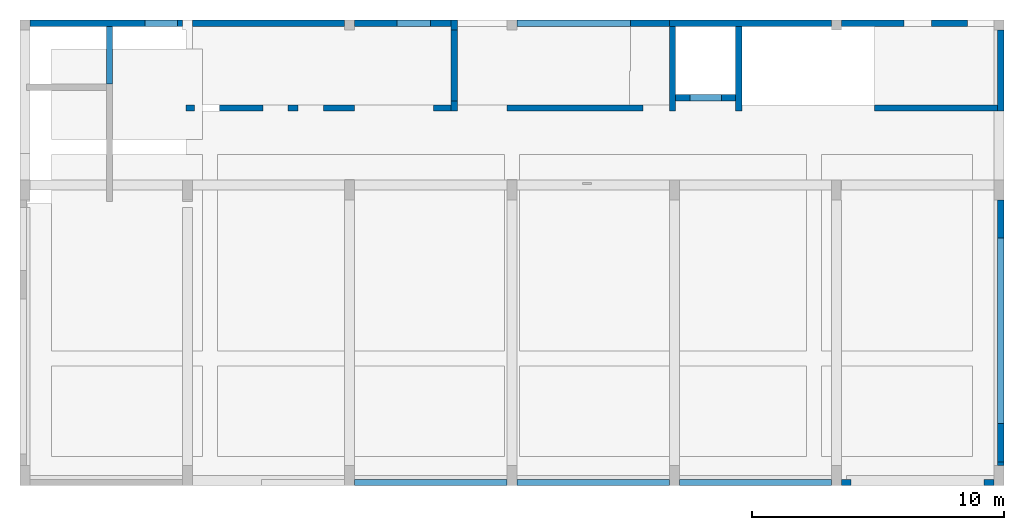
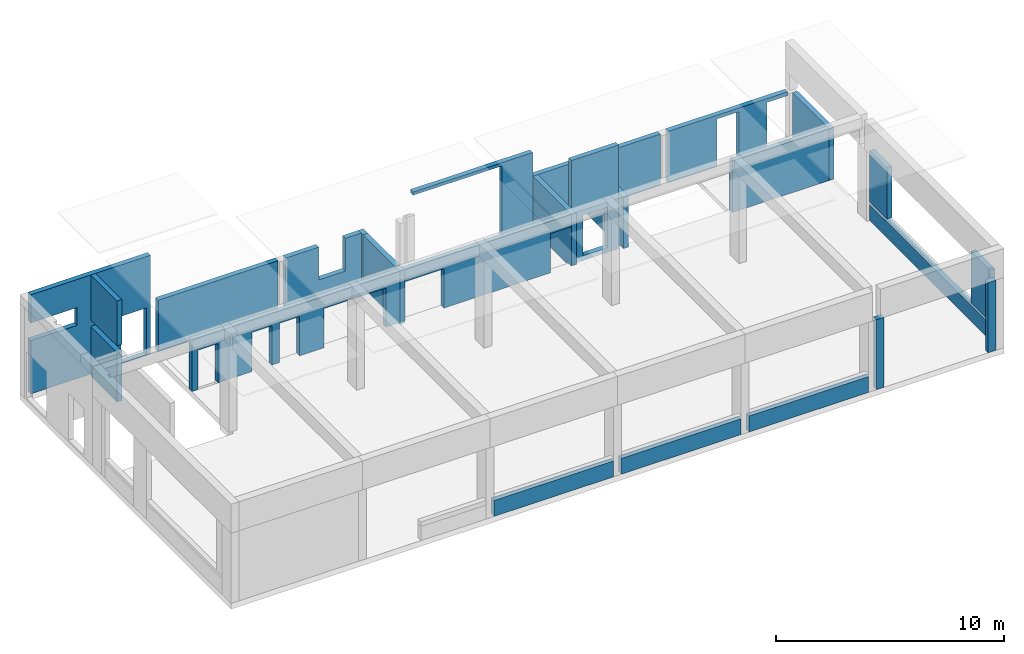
# One storey, part 3 of 3: 27 walls, 14 openings.
"""IFC2X3 building model written with IfcOpenShell, lengths in centimetres."""

from ifc_helpers import new_model, entity, si_unit, converted_unit, derived_unit, direction, frame, frame_2d, origin, origin_2d_with_axis, place, context, subcontext, project, spatial, polyline, rectangle, extrude, clip, bounded_halfspace, material, layer, layer_set, layer_usage, type_object, element, save


model = new_model("IFC2X3")

# Units and contexts
model_context = context("Model", 3, precision=0.001, world=origin(), true_north=direction((6.12303176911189e-17, 1.0)))
body_context = subcontext(model_context, "Body", "Model", "MODEL_VIEW")
ifc_project = project(units=[si_unit("LENGTHUNIT", "METRE", prefix="CENTI"), si_unit("AREAUNIT", "SQUARE_METRE"), si_unit("VOLUMEUNIT", "CUBIC_METRE"), converted_unit("PLANEANGLEUNIT", "DEGREE", entity("IfcRatioMeasure", 0.0174532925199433), si_unit("PLANEANGLEUNIT", "RADIAN"), dimensions=[0, 0, 0, 0, 0, 0, 0]), si_unit("MASSUNIT", "GRAM", prefix="KILO"), derived_unit("MASSDENSITYUNIT", [(si_unit("MASSUNIT", "GRAM", prefix="KILO"), 1), (si_unit("LENGTHUNIT", "METRE"), -3)]), derived_unit("MOMENTOFINERTIAUNIT", [(si_unit("LENGTHUNIT", "METRE"), 4)]), si_unit("TIMEUNIT", "SECOND"), si_unit("FREQUENCYUNIT", "HERTZ"), si_unit("THERMODYNAMICTEMPERATUREUNIT", "DEGREE_CELSIUS"), derived_unit("THERMALTRANSMITTANCEUNIT", [(si_unit("MASSUNIT", "GRAM", prefix="KILO"), 1), (si_unit("THERMODYNAMICTEMPERATUREUNIT", "KELVIN"), -1), (si_unit("TIMEUNIT", "SECOND"), -3)]), derived_unit("VOLUMETRICFLOWRATEUNIT", [(si_unit("LENGTHUNIT", "METRE"), 3), (si_unit("TIMEUNIT", "SECOND"), -1)]), si_unit("ELECTRICCURRENTUNIT", "AMPERE"), si_unit("ELECTRICVOLTAGEUNIT", "VOLT"), si_unit("POWERUNIT", "WATT"), si_unit("FORCEUNIT", "NEWTON", prefix="KILO"), si_unit("ILLUMINANCEUNIT", "LUX"), si_unit("LUMINOUSFLUXUNIT", "LUMEN"), si_unit("LUMINOUSINTENSITYUNIT", "CANDELA"), derived_unit("USERDEFINED", [(si_unit("MASSUNIT", "GRAM", prefix="KILO"), -1), (si_unit("LENGTHUNIT", "METRE"), -2), (si_unit("TIMEUNIT", "SECOND"), 3), (si_unit("LUMINOUSFLUXUNIT", "LUMEN"), 1)]), derived_unit("LINEARVELOCITYUNIT", [(si_unit("LENGTHUNIT", "METRE"), 1), (si_unit("TIMEUNIT", "SECOND"), -1)]), si_unit("PRESSUREUNIT", "PASCAL"), derived_unit("USERDEFINED", [(si_unit("LENGTHUNIT", "METRE"), -2), (si_unit("MASSUNIT", "GRAM", prefix="KILO"), 1), (si_unit("TIMEUNIT", "SECOND"), -2)]), derived_unit("LINEARFORCEUNIT", [(si_unit("MASSUNIT", "GRAM", prefix="KILO"), 1), (si_unit("LENGTHUNIT", "METRE"), 1), (si_unit("TIMEUNIT", "SECOND"), -2), (si_unit("LENGTHUNIT", "METRE"), -1)]), derived_unit("PLANARFORCEUNIT", [(si_unit("MASSUNIT", "GRAM", prefix="KILO"), 1), (si_unit("LENGTHUNIT", "METRE"), 1), (si_unit("TIMEUNIT", "SECOND"), -2), (si_unit("LENGTHUNIT", "METRE"), -2)])], contexts=[model_context])

# Site, building, storey
site_placement = place(None, origin())
site = spatial("IfcSite", under=ifc_project, at=site_placement, Name="Default", CompositionType="ELEMENT")
building_placement = place(site_placement, origin())
building = spatial("IfcBuilding", under=site, at=building_placement, CompositionType="ELEMENT")
storey_placement = place(building_placement, frame((0.0, 0.0, -10.0)))
storey = spatial("IfcBuildingStorey", under=building, at=storey_placement, Name="Poziom 0K -0,10", CompositionType="ELEMENT", Elevation=-10.0)

# Wall, openings
ifc_material_1 = material(Name="_Beton C30/37")
ifc_layer_1 = layer(ifc_material_1, 25.0)
ifc_layer_set_1 = layer_set([ifc_layer_1], Name="Ściana podstawowa:Ściana żelbetowa gr. 25cm")
ifc_layer_usage_1 = layer_usage(ifc_layer_set_1, "AXIS2", "NEGATIVE", 12.5)
wall_type_1 = type_object("IfcWallType", Name="Ściana podstawowa:Ściana żelbetowa gr. 25cm", PredefinedType="STANDARD", material=ifc_layer_set_1)
wall_1_placement = place(storey_placement, frame((-2894.26510889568, 2092.62745206, 10.0)))
wall_1 = element("IfcWallStandardCase", 1, at=wall_1_placement, inside=storey, type_object=wall_type_1, material=ifc_layer_usage_1, Name="Ściana podstawowa:Ściana żelbetowa gr. 25cm", ObjectType="Ściana podstawowa:Ściana żelbetowa gr. 25cm", context=body_context, shape_type="SweptSolid", body=[
    extrude(rectangle(XDim=604.999986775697, YDim=25.0000000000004, at=frame_2d((302.499993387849, 3.5527136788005e-15), x_axis=(-1.0, 0.0))), origin(), (0.0, 0.0, 1.0), 529.999999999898),
])
opening_1_placement = place(wall_1_placement, origin())
element("IfcOpeningElement", 2, at=opening_1_placement, cuts=wall_1, Name="Ściana podstawowa:Ściana żelbetowa gr. 25cm", ObjectType="Opening", context=body_context, shape_type="SweptSolid", body=[
    extrude(rectangle(XDim=95.0, YDim=235.0, at=frame_2d((-2.8421709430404e-14, 2.20268248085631e-13), x_axis=(1.0, 0.0))), frame((117.5, -139.9, 332.5), z_axis=(0.0, 1.0, 0.0), x_axis=(0.0, 0.0, -1.0)), (0.0, 0.0, 1.0), 304.8),
])
opening_2_placement = place(wall_1_placement, origin())
element("IfcOpeningElement", 3, at=opening_2_placement, cuts=wall_1, Name="Ściana podstawowa:Ściana żelbetowa gr. 25cm", ObjectType="Opening", context=body_context, shape_type="SweptSolid", body=[
    extrude(rectangle(XDim=250.0, YDim=130.0, at=origin_2d_with_axis()), frame((521.005095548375, -139.9, 130.187303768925), z_axis=(0.0, 1.0, 0.0), x_axis=(0.0, 0.0, -1.0)), (0.0, 0.0, 1.0), 304.8),
])

# Wall
ifc_layer_usage_2 = layer_usage(ifc_layer_set_1, "AXIS2", "NEGATIVE", 12.5)
wall_2_placement = place(storey_placement, frame((-2249.26510655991, 2092.62745206, 10.0)))
element("IfcWallStandardCase", 4, at=wall_2_placement, inside=storey, type_object=wall_type_1, material=ifc_layer_usage_2, Name="Ściana podstawowa:Ściana żelbetowa gr. 25cm", ObjectType="Ściana podstawowa:Ściana żelbetowa gr. 25cm", context=body_context, shape_type="SweptSolid", body=[
    extrude(rectangle(XDim=605.000000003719, YDim=25.0000000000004, at=frame_2d((302.50000000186, 3.5527136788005e-15), x_axis=(-1.0, 0.0))), origin(), (0.0, 0.0, 1.0), 275.0),
])

# Wall, opening
ifc_layer_usage_3 = layer_usage(ifc_layer_set_1, "AXIS2", "NEGATIVE", 12.5)
wall_3_placement = place(storey_placement, frame((-1604.26512211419, 2092.62745206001, 10.0)))
wall_3 = element("IfcWallStandardCase", 5, at=wall_3_placement, inside=storey, type_object=wall_type_1, material=ifc_layer_usage_3, Name="Ściana podstawowa:Ściana żelbetowa gr. 25cm", ObjectType="Ściana podstawowa:Ściana żelbetowa gr. 25cm", context=body_context, shape_type="SweptSolid", body=[
    extrude(rectangle(XDim=382.500025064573, YDim=25.0000000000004, at=frame_2d((191.250012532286, 0.0), x_axis=(-1.0, 0.0))), origin(), (0.0, 0.0, 1.0), 275.0),
])
opening_3_placement = place(wall_3_placement, origin())
element("IfcOpeningElement", 6, at=opening_3_placement, cuts=wall_3, Name="Ściana podstawowa:Ściana żelbetowa gr. 25cm", ObjectType="Opening", context=body_context, shape_type="SweptSolid", body=[
    extrude(rectangle(XDim=250.0, YDim=134.0, at=origin_2d_with_axis()), frame((235.0, -139.9, 225.000080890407), z_axis=(0.0, 1.0, 0.0), x_axis=(0.0, 0.0, -1.0)), (0.0, 0.0, 1.0), 304.8),
])

# Wall, openings
ifc_layer_usage_4 = layer_usage(ifc_layer_set_1, "AXIS2", "NEGATIVE", 12.5)
wall_4_placement = place(storey_placement, frame((330.734889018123, 2092.62745061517, 10.0)))
wall_4 = element("IfcWallStandardCase", 7, at=wall_4_placement, inside=storey, type_object=wall_type_1, material=ifc_layer_usage_4, Name="Ściana podstawowa:Ściana żelbetowa gr. 25cm", ObjectType="Ściana podstawowa:Ściana żelbetowa gr. 25cm", context=body_context, shape_type="SweptSolid", body=[
    extrude(rectangle(XDim=605.000004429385, YDim=25.0000000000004, at=frame_2d((302.500002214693, 0.0), x_axis=(-1.0, 0.0))), origin(), (0.0, 0.0, 1.0), 274.999999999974),
])
opening_4_placement = place(wall_4_placement, origin())
element("IfcOpeningElement", 8, at=opening_4_placement, cuts=wall_4, Name="Ściana podstawowa:Ściana żelbetowa gr. 25cm", ObjectType="Opening", context=body_context, shape_type="SweptSolid", body=[
    extrude(rectangle(XDim=255.0, YDim=110.0, at=frame_2d((0.0, -5.32907051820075e-14), x_axis=(1.0, 0.0))), frame((554.999973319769, -139.9, 127.500044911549), z_axis=(0.0, 1.0, 0.0), x_axis=(0.0, 0.0, -1.0)), (0.0, 0.0, 1.0), 304.8),
])
opening_5_placement = place(wall_4_placement, origin())
element("IfcOpeningElement", 9, at=opening_5_placement, cuts=wall_4, Name="Ściana podstawowa:Ściana żelbetowa gr. 25cm", ObjectType="Opening", context=body_context, shape_type="SweptSolid", body=[
    extrude(rectangle(XDim=255.0, YDim=110.0, at=frame_2d((0.0, -5.32907051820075e-14), x_axis=(1.0, 0.0))), frame((302.499988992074, -139.9, 127.500048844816), z_axis=(0.0, 1.0, 0.0), x_axis=(0.0, 0.0, -1.0)), (0.0, 0.0, 1.0), 304.8),
])

# Walls
ifc_layer_usage_5 = layer_usage(ifc_layer_set_1, "AXIS2", "NEGATIVE", 12.5)
wall_5_placement = place(storey_placement, frame((963.2348977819, 2065.12745205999, 10.0), z_axis=(0.0, 0.0, 1.0), x_axis=(0.0, -1.0, 0.0)))
element("IfcWallStandardCase", 10, at=wall_5_placement, inside=storey, type_object=wall_type_1, material=ifc_layer_usage_5, Name="Ściana podstawowa:Ściana żelbetowa gr. 25cm", ObjectType="Ściana podstawowa:Ściana żelbetowa gr. 25cm", context=body_context, shape_type="SweptSolid", body=[
    extrude(rectangle(XDim=322.0, YDim=25.0000000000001, at=frame_2d((161.0, 5.41788836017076e-14), x_axis=(-1.0, 0.0))), origin(), (0.0, 0.0, 1.0), 275.0),
])
ifc_layer_usage_6 = layer_usage(ifc_layer_set_1, "AXIS2", "POSITIVE", -12.5)
wall_6_placement = place(storey_placement, frame((-78.2649889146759, 2080.12745061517, 0.0), z_axis=(0.0, 0.0, 1.0), x_axis=(0.0, -1.0, 0.0)))
element("IfcWallStandardCase", 11, at=wall_6_placement, inside=storey, type_object=wall_type_1, material=ifc_layer_usage_6, Name="Ściana podstawowa:Ściana żelbetowa gr. 25cm", ObjectType="Ściana podstawowa:Ściana żelbetowa gr. 25cm", context=body_context, shape_type="Clipping", body=[
    clip(clip(extrude(rectangle(XDim=337.000019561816, YDim=25.0, at=frame_2d((168.500009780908, -1.77635683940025e-15), x_axis=(-1.0, 0.0))), origin(), (0.0, 0.0, 1.0), 285.0), bounded_halfspace(frame((296.435258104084, -12.4999999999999, 10.0), z_axis=(0.0, 0.0, 1.0), x_axis=(-1.0, 0.0, 0.0)), True, frame((296.435258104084, -12.4999999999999, 10.0), z_axis=(0.0, 0.0, 1.0), x_axis=(-1.0, 0.0, 0.0)), polyline([(0.0, 0.0), (-40.5647614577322, 0.0), (-40.5647614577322, -25.0), (-15.5647405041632, -25.0), (0.0, -25.0), (0.0, 0.0)]))), bounded_halfspace(frame((296.435258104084, 12.5, 10.0), z_axis=(-1.0, 0.0, 0.0), x_axis=(0.0, 0.0, 1.0)), True, frame((296.435258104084, 12.5, 10.0), z_axis=(-1.0, 0.0, 0.0), x_axis=(0.0, 0.0, 1.0)), polyline([(0.0, 0.0), (-10.0, 0.0), (-10.0, -25.0), (0.0, -25.0), (0.0, 0.0)]))),
])

# Wall, opening
ifc_layer_usage_7 = layer_usage(ifc_layer_set_1, "AXIS2", "NEGATIVE", 12.5)
wall_7_placement = place(storey_placement, frame((-90.7649889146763, 1796.19219251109, -15.0), z_axis=(0.0, 0.0, 1.0), x_axis=(-1.0, 0.0, 0.0)))
wall_7 = element("IfcWallStandardCase", 12, at=wall_7_placement, inside=storey, type_object=wall_type_1, material=ifc_layer_usage_7, Name="Ściana podstawowa:Ściana żelbetowa gr. 25cm", ObjectType="Ściana podstawowa:Ściana żelbetowa gr. 25cm", context=body_context, shape_type="SweptSolid", body=[
    extrude(rectangle(XDim=238.500123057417, YDim=24.9999999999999, at=frame_2d((119.250061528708, 0.0), x_axis=(-1.0, 0.0))), origin(), (0.0, 0.0, 1.0), 554.999999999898),
])
opening_6_placement = place(wall_7_placement, origin())
element("IfcOpeningElement", 13, at=opening_6_placement, cuts=wall_7, Name="Ściana podstawowa:Ściana żelbetowa gr. 25cm", ObjectType="Opening", context=body_context, shape_type="SweptSolid", body=[
    extrude(rectangle(XDim=217.5, YDim=125.0, at=frame_2d((-1.06581410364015e-14, 1.4210854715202e-14), x_axis=(0.0, 1.0))), frame((119.500083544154, -164.9, 134.250015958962), z_axis=(0.0, 1.0, 0.0), x_axis=(1.0, 0.0, 0.0)), (0.0, 0.0, 1.0), 304.8),
])

# Walls
ifc_layer_usage_8 = layer_usage(ifc_layer_set_1, "AXIS2", "NEGATIVE", 12.5)
wall_8_placement = place(storey_placement, frame((-341.765111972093, 1742.6274520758, 0.0), z_axis=(0.0, 0.0, 1.0), x_axis=(0.0, 1.0, 0.0)))
element("IfcWallStandardCase", 14, at=wall_8_placement, inside=storey, type_object=wall_type_1, material=ifc_layer_usage_8, Name="Ściana podstawowa:Ściana żelbetowa gr. 25cm", ObjectType="Ściana podstawowa:Ściana żelbetowa gr. 25cm", context=body_context, shape_type="Clipping", body=[
    clip(clip(extrude(rectangle(XDim=337.499998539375, YDim=24.9999999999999, at=frame_2d((168.749999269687, 0.0), x_axis=(-1.0, 0.0))), origin(), (0.0, 0.0, 1.0), 285.0), bounded_halfspace(frame((41.0647404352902, 12.5, 10.0)), True, frame((41.0647404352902, 12.5, 10.0)), polyline([(0.0, 0.0), (-15.5647405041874, 0.0), (-41.0647404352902, 0.0), (-41.06474043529, -25.0), (0.0, -25.0), (0.0, 0.0)]))), bounded_halfspace(frame((41.0647404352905, -12.5000000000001, 10.0), z_axis=(1.0, 0.0, 0.0), x_axis=(0.0, 0.0, 1.0)), True, frame((41.0647404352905, -12.5000000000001, 10.0), z_axis=(1.0, 0.0, 0.0), x_axis=(0.0, 0.0, 1.0)), polyline([(0.0, 0.0), (-10.0, 0.0), (-10.0, -25.0), (0.0, -25.0), (0.0, 0.0)]))),
])
ifc_layer_usage_9 = layer_usage(ifc_layer_set_1, "AXIS2", "NEGATIVE", 12.5)
wall_9_placement = place(storey_placement, frame((-354.265111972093, 2092.62745061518, 10.0)))
element("IfcWallStandardCase", 15, at=wall_9_placement, inside=storey, type_object=wall_type_1, material=ifc_layer_usage_9, Name="Ściana podstawowa:Ściana żelbetowa gr. 25cm", ObjectType="Ściana podstawowa:Ściana żelbetowa gr. 25cm", context=body_context, shape_type="SweptSolid", body=[
    extrude(rectangle(XDim=645.000001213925, YDim=25.0000000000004, at=frame_2d((322.500000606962, -3.5527136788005e-14), x_axis=(-1.0, 0.0))), origin(), (0.0, 0.0, 1.0), 274.999999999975),
])
ifc_layer_usage_10 = layer_usage(ifc_layer_set_1, "AXIS2", "NEGATIVE", 12.5)
wall_10_placement = place(storey_placement, frame((330.734893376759, 267.627519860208, 10.0)))
element("IfcWallStandardCase", 16, at=wall_10_placement, inside=storey, type_object=wall_type_1, material=ifc_layer_usage_10, Name="Ściana podstawowa:Ściana żelbetowa gr. 25cm", ObjectType="Ściana podstawowa:Ściana żelbetowa gr. 25cm", context=body_context, shape_type="SweptSolid", body=[
    extrude(rectangle(XDim=37.2645746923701, YDim=24.9999999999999, at=frame_2d((18.632287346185, 0.0), x_axis=(-1.0, 0.0))), origin(), (0.0, 0.0, 1.0), 374.999999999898),
])
ifc_layer_usage_11 = layer_usage(ifc_layer_set_1, "AXIS2", "NEGATIVE", 12.5)
wall_11_placement = place(storey_placement, frame((895.735096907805, 267.627519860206, 10.0)))
element("IfcWallStandardCase", 17, at=wall_11_placement, inside=storey, type_object=wall_type_1, material=ifc_layer_usage_11, Name="Ściana podstawowa:Ściana żelbetowa gr. 25cm", ObjectType="Ściana podstawowa:Ściana żelbetowa gr. 25cm", context=body_context, shape_type="SweptSolid", body=[
    extrude(rectangle(XDim=39.9997941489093, YDim=24.9999999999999, at=frame_2d((19.9998970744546, 0.0), x_axis=(-1.0, 0.0))), origin(), (0.0, 0.0, 1.0), 374.999999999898),
])
ifc_layer_usage_12 = layer_usage(ifc_layer_set_1, "AXIS2", "NEGATIVE", 12.5)
wall_12_placement = place(storey_placement, frame((963.234897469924, 348.727452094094, 10.0), z_axis=(0.0, 0.0, 1.0), x_axis=(0.0, -1.0, 0.0)))
element("IfcWallStandardCase", 18, at=wall_12_placement, inside=storey, type_object=wall_type_1, material=ifc_layer_usage_12, Name="Ściana podstawowa:Ściana żelbetowa gr. 25cm", ObjectType="Ściana podstawowa:Ściana żelbetowa gr. 25cm", context=body_context, shape_type="SweptSolid", body=[
    extrude(rectangle(XDim=13.5997944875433, YDim=24.9999999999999, at=frame_2d((6.79989724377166, 0.0), x_axis=(-1.0, 0.0))), origin(), (0.0, 0.0, 1.0), 374.999999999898),
])

# Wall, openings
ifc_layer_usage_13 = layer_usage(ifc_layer_set_1, "AXIS2", "NEGATIVE", 12.5)
wall_13_placement = place(storey_placement, frame((-1196.76508927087, 1755.6274519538, 10.0)))
wall_13 = element("IfcWallStandardCase", 19, at=wall_13_placement, inside=storey, type_object=wall_type_1, material=ifc_layer_usage_13, Name="Ściana podstawowa:Ściana żelbetowa gr. 25cm", ObjectType="Ściana podstawowa:Ściana żelbetowa gr. 25cm", context=body_context, shape_type="SweptSolid", body=[
    extrude(rectangle(XDim=842.500101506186, YDim=24.9999999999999, at=frame_2d((421.250050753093, 3.81916720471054e-14), x_axis=(-1.0, 0.0))), origin(), (0.0, 0.0, 1.0), 275.0),
])
opening_7_placement = place(wall_13_placement, origin())
element("IfcOpeningElement", 20, at=opening_7_placement, cuts=wall_13, Name="Ściana podstawowa:Ściana żelbetowa gr. 25cm", ObjectType="Opening", context=body_context, shape_type="SweptSolid", body=[
    extrude(rectangle(XDim=210.0, YDim=105.0, at=frame_2d((0.0, 2.48689957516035e-14), x_axis=(1.0, 0.0))), frame((789.999997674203, -139.9, 105.0), z_axis=(0.0, 1.0, 0.0), x_axis=(0.0, 0.0, -1.0)), (0.0, 0.0, 1.0), 304.8),
])
opening_8_placement = place(wall_13_placement, frame((1196.76508927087, -1755.6274519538, -10.0)))
element("IfcOpeningElement", 21, at=opening_8_placement, cuts=wall_13, Name="Ściana podstawowa:Ściana żelbetowa gr. 25cm", ObjectType="Opening", context=body_context, shape_type="SweptSolid", body=[
    extrude(rectangle(XDim=210.0, YDim=197.5, at=frame_2d((0.0, -1.06581410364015e-13), x_axis=(1.0, 0.0))), frame((-1098.01508805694, 1615.7274519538, 115.0), z_axis=(0.0, 1.0, 0.0), x_axis=(0.0, 0.0, -1.0)), (0.0, 0.0, 1.0), 304.8),
])

ifc_layer_usage_14 = layer_usage(ifc_layer_set_1, "AXIS2", "NEGATIVE", 12.5)
wall_14_placement = place(storey_placement, frame((-2274.26512441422, 1755.62745200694, 10.0)))
wall_14 = element("IfcWallStandardCase", 22, at=wall_14_placement, inside=storey, type_object=wall_type_1, material=ifc_layer_usage_14, Name="Ściana podstawowa:Ściana żelbetowa gr. 25cm", ObjectType="Ściana podstawowa:Ściana żelbetowa gr. 25cm", context=body_context, shape_type="SweptSolid", body=[
    extrude(rectangle(XDim=1052.50003514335, YDim=24.9999999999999, at=frame_2d((526.250017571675, 3.01980662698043e-14), x_axis=(-1.0, 0.0))), origin(), (0.0, 0.0, 1.0), 274.999999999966),
])
opening_9_placement = place(wall_14_placement, origin())
element("IfcOpeningElement", 23, at=opening_9_placement, cuts=wall_14, Name="Ściana podstawowa:Ściana żelbetowa gr. 25cm", ObjectType="Opening", context=body_context, shape_type="SweptSolid", body=[
    extrude(rectangle(XDim=210.0, YDim=313.0, at=origin_2d_with_axis()), frame((826.500015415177, -139.9, 105.0), z_axis=(0.0, 1.0, 0.0), x_axis=(0.0, 0.0, -1.0)), (0.0, 0.0, 1.0), 304.8),
])
opening_10_placement = place(wall_14_placement, origin())
element("IfcOpeningElement", 24, at=opening_10_placement, cuts=wall_14, Name="Ściana podstawowa:Ściana żelbetowa gr. 25cm", ObjectType="Opening", context=body_context, shape_type="SweptSolid", body=[
    extrude(rectangle(XDim=210.0, YDim=100.0, at=frame_2d((0.0, -1.10134124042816e-13), x_axis=(1.0, 0.0))), frame((355.000048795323, -139.9, 105.0), z_axis=(0.0, 1.0, 0.0), x_axis=(0.0, 0.0, -1.0)), (0.0, 0.0, 1.0), 304.8),
])
opening_11_placement = place(wall_14_placement, origin())
element("IfcOpeningElement", 25, at=opening_11_placement, cuts=wall_14, Name="Ściana podstawowa:Ściana żelbetowa gr. 25cm", ObjectType="Opening", context=body_context, shape_type="SweptSolid", body=[
    extrude(rectangle(XDim=210.0, YDim=100.0, at=frame_2d((0.0, -1.06581410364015e-13), x_axis=(1.0, 0.0))), frame((495.000048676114, -139.9, 105.0), z_axis=(0.0, 1.0, 0.0), x_axis=(0.0, 0.0, -1.0)), (0.0, 0.0, 1.0), 304.8),
])
opening_12_placement = place(wall_14_placement, origin())
element("IfcOpeningElement", 26, at=opening_12_placement, cuts=wall_14, Name="Ściana podstawowa:Ściana żelbetowa gr. 25cm", ObjectType="Opening", context=body_context, shape_type="SweptSolid", body=[
    extrude(rectangle(XDim=210.0, YDim=99.9999999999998, at=frame_2d((0.0, 4.29878355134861e-13), x_axis=(1.0, 0.0))), frame((82.5000315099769, -139.9, 105.0), z_axis=(0.0, 1.0, 0.0), x_axis=(0.0, 0.0, -1.0)), (0.0, 0.0, 1.0), 304.8),
])

# Wall
ifc_layer_usage_15 = layer_usage(ifc_layer_set_1, "AXIS2", "NEGATIVE", 12.5)
wall_15_placement = place(storey_placement, frame((-1209.26508927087, 1743.12745200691, 0.0), z_axis=(0.0, 0.0, 1.0), x_axis=(0.0, 1.0, 0.0)))
element("IfcWallStandardCase", 27, at=wall_15_placement, inside=storey, type_object=wall_type_1, material=ifc_layer_usage_15, Name="Ściana podstawowa:Ściana żelbetowa gr. 25cm", ObjectType="Ściana podstawowa:Ściana żelbetowa gr. 25cm", context=body_context, shape_type="SweptSolid", body=[
    extrude(rectangle(XDim=40.0, YDim=24.9999999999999, at=frame_2d((20.0, 0.0), x_axis=(-1.0, 0.0))), origin(), (0.0, 0.0, 1.0), 285.0),
])

# Wall, opening
ifc_layer_usage_16 = layer_usage(ifc_layer_set_1, "AXIS2", "NEGATIVE", 12.5)
wall_16_placement = place(storey_placement, frame((-1209.26508927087, 2065.12745200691, 10.0), z_axis=(0.0, 0.0, 1.0), x_axis=(0.0, 1.0, 0.0)))
wall_16 = element("IfcWallStandardCase", 28, at=wall_16_placement, inside=storey, type_object=wall_type_1, material=ifc_layer_usage_16, Name="Ściana podstawowa:Ściana żelbetowa gr. 25cm", ObjectType="Ściana podstawowa:Ściana żelbetowa gr. 25cm", context=body_context, shape_type="SweptSolid", body=[
    extrude(rectangle(XDim=40.0000000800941, YDim=24.9999999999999, at=frame_2d((20.000000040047, 0.0), x_axis=(-1.0, 0.0))), origin(), (0.0, 0.0, 1.0), 275.0),
])
opening_13_placement = place(wall_16_placement, origin())
element("IfcOpeningElement", 29, at=opening_13_placement, cuts=wall_16, Name="Ściana podstawowa:Ściana żelbetowa gr. 25cm", ObjectType="Opening", context=body_context, shape_type="SweptSolid", body=[
    extrude(rectangle(XDim=265.0, YDim=24.9999999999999, at=frame_2d((2.16715534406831e-13, 0.0), x_axis=(0.0, 1.0))), frame((27.5000000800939, -209.999980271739, 122.5), z_axis=(0.0, 1.0, 0.0), x_axis=(-1.0, 0.0, 0.0)), (0.0, 0.0, 1.0), 197.5),
])

# Wall
ifc_layer_usage_17 = layer_usage(ifc_layer_set_1, "AXIS2", "NEGATIVE", 12.5)
wall_17_placement = place(storey_placement, frame((950.7348977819, 1755.62745200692, 10.0), z_axis=(0.0, 0.0, 1.0), x_axis=(-1.0, 0.0, 0.0)))
element("IfcWallStandardCase", 30, at=wall_17_placement, inside=storey, type_object=wall_type_1, material=ifc_layer_usage_17, Name="Ściana podstawowa:Ściana żelbetowa gr. 25cm", ObjectType="Ściana podstawowa:Ściana żelbetowa gr. 25cm", context=body_context, shape_type="SweptSolid", body=[
    extrude(rectangle(XDim=489.500019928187, YDim=24.9999999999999, at=frame_2d((244.750009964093, -1.86517468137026e-14), x_axis=(-1.0, 0.0))), origin(), (0.0, 0.0, 1.0), 275.0),
])

# Wall, opening
ifc_layer_usage_18 = layer_usage(ifc_layer_set_1, "AXIS2", "NEGATIVE", 12.5)
wall_18_placement = place(storey_placement, frame((-959.265105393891, 2092.62743150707, 0.0)))
wall_18 = element("IfcWallStandardCase", 31, at=wall_18_placement, inside=storey, type_object=wall_type_1, material=ifc_layer_usage_18, Name="Ściana podstawowa:Ściana żelbetowa gr. 25cm", ObjectType="Ściana podstawowa:Ściana żelbetowa gr. 25cm", context=body_context, shape_type="SweptSolid", body=[
    extrude(rectangle(XDim=605.0, YDim=25.0000000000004, at=frame_2d((302.5, 0.0), x_axis=(-1.0, 0.0))), origin(), (0.0, 0.0, 1.0), 412.000000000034),
])
opening_14_placement = place(wall_18_placement, origin())
element("IfcOpeningElement", 32, at=opening_14_placement, cuts=wall_18, Name="Ściana podstawowa:Ściana żelbetowa gr. 25cm", ObjectType="Opening", context=body_context, shape_type="SweptSolid", body=[
    extrude(rectangle(XDim=385.0, YDim=450.0, at=frame_2d((0.0, 4.2632564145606e-14), x_axis=(1.0, 0.0))), frame((224.999996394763, -139.9, 202.500000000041), z_axis=(0.0, 1.0, 0.0), x_axis=(0.0, 0.0, -1.0)), (0.0, 0.0, 1.0), 304.8),
])

# Walls
ifc_layer_usage_19 = layer_usage(ifc_layer_set_1, "AXIS2", "NEGATIVE", 12.5)
wall_19_placement = place(storey_placement, frame((-1209.26499418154, 1783.12745200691, 0.0), z_axis=(0.0, 0.0, 1.0), x_axis=(0.0, 1.0, 0.0)))
element("IfcWallStandardCase", 33, at=wall_19_placement, inside=storey, type_object=wall_type_1, material=ifc_layer_usage_19, Name="Ściana podstawowa:Ściana żelbetowa gr. 25cm", ObjectType="Ściana podstawowa:Ściana żelbetowa gr. 25cm", context=body_context, shape_type="SweptSolid", body=[
    extrude(rectangle(XDim=281.99997940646, YDim=24.9999999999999, at=frame_2d((140.99998970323, 0.0), x_axis=(-1.0, 0.0))), origin(), (0.0, 0.0, 1.0), 285.0),
])
ifc_material_2 = material(Name="Pustak ceramiczny, klasa 15")
ifc_layer_2 = layer(ifc_material_2, 25.0)
ifc_layer_set_2 = layer_set([ifc_layer_2], Name="Ściana podstawowa:Ściana murowana gr. 25cm")
ifc_layer_usage_20 = layer_usage(ifc_layer_set_2, "AXIS2", "POSITIVE", -12.5)
wall_type_2 = type_object("IfcWallType", Name="Ściana podstawowa:Ściana murowana gr. 25cm", PredefinedType="STANDARD", material=ifc_layer_set_2)
wall_20_placement = place(storey_placement, frame((-1604.26510661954, 267.627499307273, 10.0)))
element("IfcWallStandardCase", 34, at=wall_20_placement, inside=storey, type_object=wall_type_2, material=ifc_layer_usage_20, Name="Ściana podstawowa:Ściana murowana gr. 25cm", ObjectType="Ściana podstawowa:Ściana murowana gr. 25cm", context=body_context, shape_type="SweptSolid", body=[
    extrude(rectangle(XDim=605.000000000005, YDim=24.9999999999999, at=frame_2d((302.500000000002, 0.0), x_axis=(-1.0, 0.0))), origin(), (0.0, 0.0, 1.0), 85.0),
])
ifc_layer_usage_21 = layer_usage(ifc_layer_set_2, "AXIS2", "POSITIVE", -12.5)
wall_21_placement = place(storey_placement, frame((-959.265106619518, 267.627499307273, 10.0)))
element("IfcWallStandardCase", 35, at=wall_21_placement, inside=storey, type_object=wall_type_2, material=ifc_layer_usage_21, Name="Ściana podstawowa:Ściana murowana gr. 25cm", ObjectType="Ściana podstawowa:Ściana murowana gr. 25cm", context=body_context, shape_type="SweptSolid", body=[
    extrude(rectangle(XDim=604.99999999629, YDim=24.9999999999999, at=frame_2d((302.499999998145, 0.0), x_axis=(-1.0, 0.0))), origin(), (0.0, 0.0, 1.0), 85.0),
])
ifc_layer_usage_22 = layer_usage(ifc_layer_set_2, "AXIS2", "POSITIVE", -12.5)
wall_22_placement = place(storey_placement, frame((-314.265106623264, 267.627499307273, 10.0)))
element("IfcWallStandardCase", 36, at=wall_22_placement, inside=storey, type_object=wall_type_2, material=ifc_layer_usage_22, Name="Ściana podstawowa:Ściana murowana gr. 25cm", ObjectType="Ściana podstawowa:Ściana murowana gr. 25cm", context=body_context, shape_type="SweptSolid", body=[
    extrude(rectangle(XDim=605.000000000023, YDim=24.9999999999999, at=frame_2d((302.500000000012, 0.0), x_axis=(-1.0, 0.0))), origin(), (0.0, 0.0, 1.0), 85.0),
])
ifc_layer_usage_23 = layer_usage(ifc_layer_set_2, "AXIS2", "POSITIVE", -12.5)
wall_23_placement = place(storey_placement, frame((963.234897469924, 348.727452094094, 10.0), z_axis=(0.0, 0.0, 1.0), x_axis=(0.0, 1.0, 0.0)))
element("IfcWallStandardCase", 37, at=wall_23_placement, inside=storey, type_object=wall_type_2, material=ifc_layer_usage_23, Name="Ściana podstawowa:Ściana murowana gr. 25cm", ObjectType="Ściana podstawowa:Ściana murowana gr. 25cm", context=body_context, shape_type="SweptSolid", body=[
    extrude(rectangle(XDim=1041.39999999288, YDim=24.9999999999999, at=frame_2d((520.699999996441, 0.0), x_axis=(-1.0, 0.0))), origin(), (0.0, 0.0, 1.0), 85.0),
])
ifc_layer_usage_24 = layer_usage(ifc_layer_set_2, "AXIS2", "NEGATIVE", 12.5)
wall_24_placement = place(storey_placement, frame((-2578.26511650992, 1850.1715304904, 0.0), z_axis=(0.0, 0.0, 1.0), x_axis=(0.0, 1.0, 0.0)))
element("IfcWallStandardCase", 38, at=wall_24_placement, inside=storey, type_object=wall_type_2, material=ifc_layer_usage_24, Name="Ściana podstawowa:Ściana murowana gr. 25cm", ObjectType="Ściana podstawowa:Ściana murowana gr. 25cm", context=body_context, shape_type="SweptSolid", body=[
    extrude(rectangle(XDim=229.955921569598, YDim=25.0000000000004, at=frame_2d((114.977960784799, 0.0), x_axis=(-1.0, 0.0))), origin(), (0.0, 0.0, 1.0), 265.0),
])
ifc_layer_usage_25 = layer_usage(ifc_layer_set_2, "AXIS2", "NEGATIVE", 12.5)
wall_25_placement = place(storey_placement, frame((-2578.26511650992, 1850.1715304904, 300.0), z_axis=(0.0, 0.0, 1.0), x_axis=(0.0, 1.0, 0.0)))
element("IfcWallStandardCase", 39, at=wall_25_placement, inside=storey, type_object=wall_type_2, material=ifc_layer_usage_25, Name="Ściana podstawowa:Ściana murowana gr. 25cm", ObjectType="Ściana podstawowa:Ściana murowana gr. 25cm", context=body_context, shape_type="SweptSolid", body=[
    extrude(rectangle(XDim=229.955921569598, YDim=25.0000000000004, at=frame_2d((114.977960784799, 0.0), x_axis=(-1.0, 0.0))), origin(), (0.0, 0.0, 1.0), 239.999999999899),
])
ifc_layer_usage_26 = layer_usage(ifc_layer_set_2, "AXIS2", "NEGATIVE", 12.5)
wall_26_placement = place(storey_placement, frame((963.234897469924, 348.727452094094, 110.0), z_axis=(0.0, 0.0, 1.0), x_axis=(0.0, 1.0, 0.0)))
element("IfcWallStandardCase", 40, at=wall_26_placement, inside=storey, type_object=wall_type_2, material=ifc_layer_usage_26, Name="Ściana podstawowa:Ściana murowana gr. 25cm", ObjectType="Ściana podstawowa:Ściana murowana gr. 25cm", context=body_context, shape_type="SweptSolid", body=[
    extrude(rectangle(XDim=153.399005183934, YDim=24.9999999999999, at=frame_2d((76.699502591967, 0.0), x_axis=(-1.0, 0.0))), origin(), (0.0, 0.0, 1.0), 274.999999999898),
])
ifc_layer_usage_27 = layer_usage(ifc_layer_set_2, "AXIS2", "NEGATIVE", 12.5)
wall_27_placement = place(storey_placement, frame((963.234897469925, 1238.12646269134, 110.0), z_axis=(0.0, 0.0, 1.0), x_axis=(0.0, 1.0, 0.0)))
element("IfcWallStandardCase", 41, at=wall_27_placement, inside=storey, type_object=wall_type_2, material=ifc_layer_usage_27, Name="Ściana podstawowa:Ściana murowana gr. 25cm", ObjectType="Ściana podstawowa:Ściana murowana gr. 25cm", context=body_context, shape_type="SweptSolid", body=[
    extrude(rectangle(XDim=152.000989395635, YDim=25.0000000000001, at=frame_2d((76.0004946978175, -5.41788836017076e-14), x_axis=(-1.0, 0.0))), origin(), (0.0, 0.0, 1.0), 274.999999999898),
])

save(model, "model.ifc")
